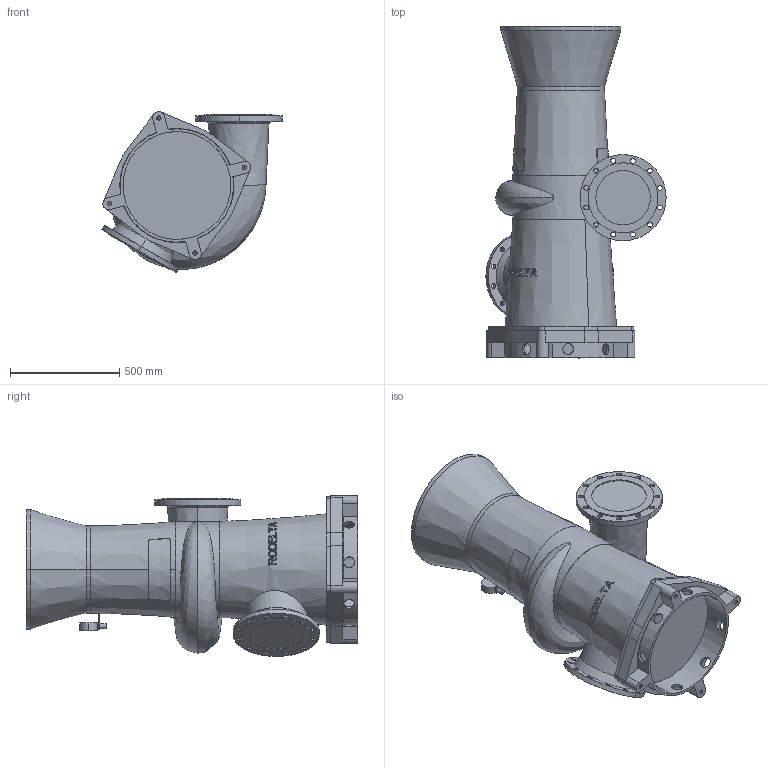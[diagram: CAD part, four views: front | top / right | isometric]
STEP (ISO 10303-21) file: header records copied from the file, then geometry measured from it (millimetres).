
FILE_DESCRIPTION((''),'2;1');
FILE_NAME('8310_VOOR_BLAD_ASM','2024-07-25T',('Lyritlocal'),(''),'PRO/ENGINEER BY PARAMETRIC TECHNOLOGY CORPORATION, 2016360','PRO/ENGINEER BY PARAMETRIC TECHNOLOGY CORPORATION, 2016360','');
FILE_SCHEMA(('CONFIG_CONTROL_DESIGN'));
Length unit declared in the file: millimetre
Products named in the file (3): 8310; 8310_VOET; 8310_VOOR_BLAD_ASM
Assembly tree (2 placements, depth 2):
  8310_VOOR_BLAD_ASM
    8310
    8310_VOET
Bounding box: 826.54 x 1521 x 737.34 mm (x, y, z)
Volume: 290401681.4 mm3; surface area: 4473475.7 mm2
Topology: 2 solids, 6 shells, 545 faces, 1466 edges, 969 vertices
Faces by surface type: plane 342, cylinder 153, cone 40, bspline 6, torus 4
Entity records: 19407 total; most frequent: CARTESIAN_POINT 6110, ORIENTED_EDGE 2900, DIRECTION 2489, EDGE_CURVE 1458, VERTEX_POINT 969, AXIS2_PLACEMENT_3D 967, EDGE_LOOP 661, VECTOR 555
